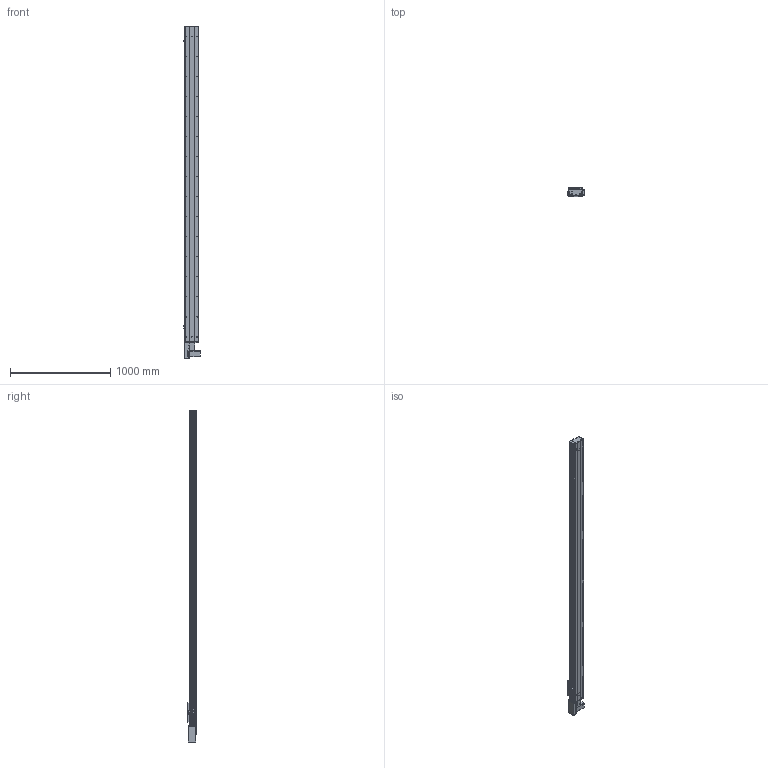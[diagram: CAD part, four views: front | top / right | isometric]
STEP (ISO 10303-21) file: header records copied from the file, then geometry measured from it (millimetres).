
FILE_DESCRIPTION (( 'STEP AP203' ), '1' );
FILE_NAME ('Y135CB-D90-S2850-BR-P400W.STEP', '2020-02-18T03:17:10', ( '微软用户' ), ( '微软中国' ), 'SwSTEP 2.0', 'SolidWorks 2017', '' );
FILE_SCHEMA (( 'CONFIG_CONTROL_DESIGN' ));
Length unit declared in the file: millimetre
Products named in the file (18): Y俋欶BR----; Y135CB-D90-S2850-BR-P400W; 5CB --掛极耜裔啣-; 0B-埴倛裔啣; C-詩湍揤踡え-陔; 0B-源倛裔啣; 135CB--詩湍-CE; 0B-萇儂楊擘啣; Y100-135俋离換覜ん--; san松下电机400不带刹车----; Y135CB-耜裔; Y135C-陔俋离換覜結え-; 135CB---遴掛极.-; 5C--俋欶; 35CB---喘謫眊楊擘啣; C-雄赽釱--; Y10B-耜蚾蟀諉啣----; Y10B--々湍喘謫眊--666
Assembly tree (21 placements, depth 2):
  Y135CB-D90-S2850-BR-P400W
    Y135CB-耜裔
    135CB---遴掛极.-
    35CB---喘謫眊楊擘啣
    Y10B-耜蚾蟀諉啣----
    Y俋欶BR----
    0B-埴倛裔啣
    0B-源倛裔啣
    0B-萇儂楊擘啣
    san松下电机400不带刹车----
    5CB --掛极耜裔啣-  x2
    C-詩湍揤踡え-陔  x2
    135CB--詩湍-CE
    Y100-135俋离換覜ん--  x3
    Y135C-陔俋离換覜結え-
    5C--俋欶
    C-雄赽釱--
    Y10B--々湍喘謫眊--666
Bounding box: 167.5 x 91 x 3314.5 mm (x, y, z)
Volume: 9191645.1 mm3; surface area: 3645965.7 mm2
Topology: 21 solids, 21 shells, 981 faces, 2689 edges, 1782 vertices
Faces by surface type: cylinder 507, plane 458, cone 16
Entity records: 31159 total; most frequent: CARTESIAN_POINT 5208, DIRECTION 5177, ORIENTED_EDGE 4854, EDGE_CURVE 2427, AXIS2_PLACEMENT_3D 1899, VERTEX_POINT 1610, VECTOR 1379, LINE 1379
